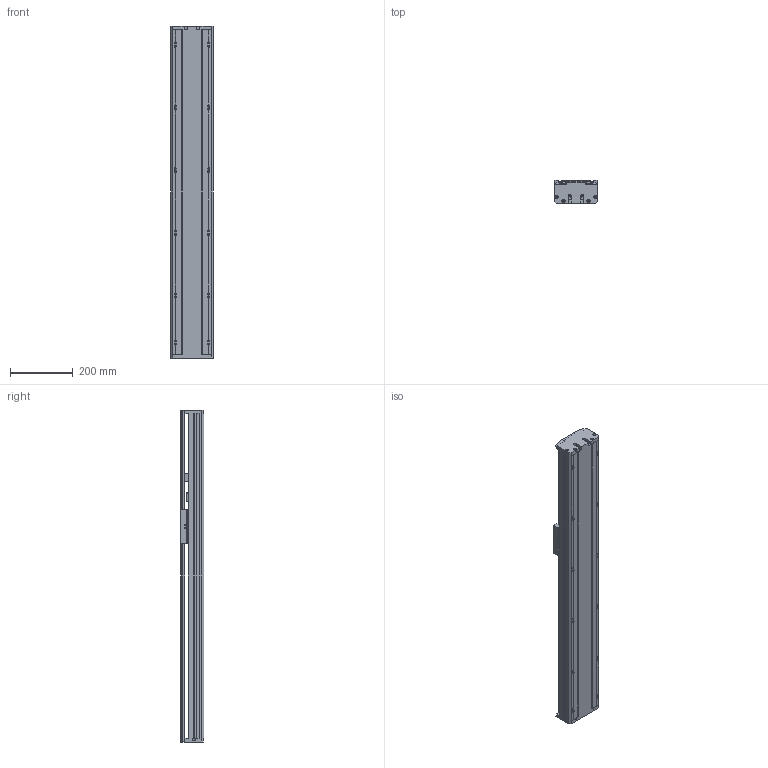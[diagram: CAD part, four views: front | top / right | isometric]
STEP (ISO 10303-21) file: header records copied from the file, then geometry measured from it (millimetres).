
FILE_DESCRIPTION(/* description */ (''),/* implementation_level */ '2;1');
FILE_NAME(/* name */ 'TKA136-FI-600_asm1.stp',/* time_stamp */ '2016-05-07T10:30:24+08:00',/* author */ (''),/* organization */ (''),/* preprocessor_version */ 'ST-DEVELOPER v15',/* originating_system */ 'SIEMENS PLM Software NX 8.5',/* authorisation */ '');
FILE_SCHEMA (('AUTOMOTIVE_DESIGN { 1 0 10303 214 3 1 1 1 }'));
Length unit declared in the file: millimetre
Products named in the file (3): 100-02; 100-01; TKA136-FI-600_asm1
Assembly tree (2 placements, depth 2):
  TKA136-FI-600_asm1
    100-01
    100-02
Bounding box: 136 x 75 x 1059 mm (x, y, z)
Volume: 3311989.2 mm3; surface area: 1239875.3 mm2
Topology: 2 solids, 12 shells, 955 faces, 2750 edges, 1803 vertices
Faces by surface type: cylinder 469, plane 436, cone 50
Full cylindrical faces by diameter (mm): 2.5 x4, 3.3 x8, 4.2 x8, 4.5 x20, 5 x10, 5.5 x14, 8 x20, 10 x9, 10.5 x6, 11.6 x1, 12 x8, 15 x3, 16 x5, 24 x3, 26 x1, 28 x1, 46 x1
Entity records: 33341 total; most frequent: CARTESIAN_POINT 8697, ORIENTED_EDGE 5056, DIRECTION 5042, EDGE_CURVE 2528, AXIS2_PLACEMENT_3D 1872, VERTEX_POINT 1755, LINE 1298, VECTOR 1298
